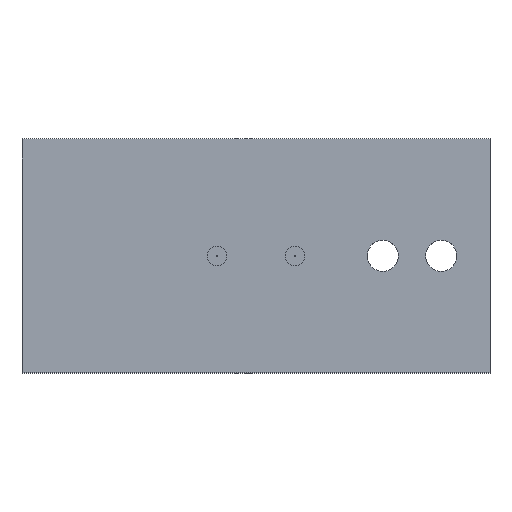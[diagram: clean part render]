
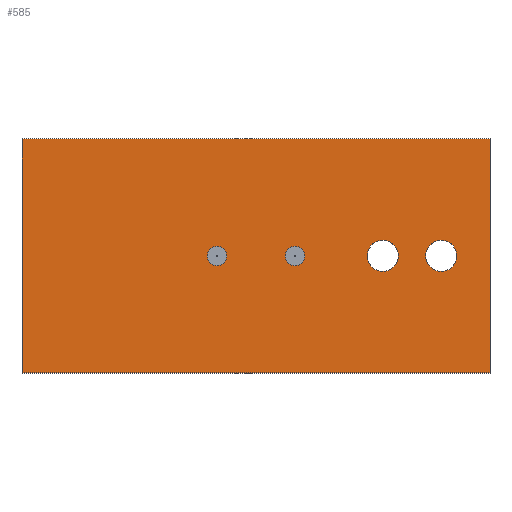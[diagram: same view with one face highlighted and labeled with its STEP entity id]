
A CAD part, top view. The second image highlights one B-rep face of the part: STEP entity #585.
In plain terms, the highlighted planar face has unit normal (0, 0, 1).
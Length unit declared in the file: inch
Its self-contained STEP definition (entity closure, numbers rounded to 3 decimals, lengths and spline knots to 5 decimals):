
#12 = CARTESIAN_POINT ( 'NONE',  ( 2.375, 0., 1.25 ) ) ;
#30 = VERTEX_POINT ( 'NONE', #325 ) ;
#37 = DIRECTION ( 'NONE',  ( 1., 0., 0. ) ) ;
#38 = ORIENTED_EDGE ( 'NONE', *, *, #883, .T. ) ;
#41 = LINE ( 'NONE', #820, #334 ) ;
#56 = CARTESIAN_POINT ( 'NONE',  ( 2.575, 0., 1.25 ) ) ;
#63 = VERTEX_POINT ( 'NONE', #904 ) ;
#99 = EDGE_CURVE ( 'NONE', #473, #601, #727, .T. ) ;
#105 = DIRECTION ( 'NONE',  ( 0., 0., 1. ) ) ;
#122 = ORIENTED_EDGE ( 'NONE', *, *, #648, .F. ) ;
#123 = DIRECTION ( 'NONE',  ( 1., 0., 0. ) ) ;
#147 = FACE_BOUND ( 'NONE', #301, .T. ) ;
#148 = DIRECTION ( 'NONE',  ( 0., 0., 1. ) ) ;
#168 = EDGE_CURVE ( 'NONE', #175, #242, #779, .T. ) ;
#175 = VERTEX_POINT ( 'NONE', #486 ) ;
#176 = DIRECTION ( 'NONE',  ( 1., 0., 0. ) ) ;
#180 = DIRECTION ( 'NONE',  ( 1., 0., 0. ) ) ;
#188 = AXIS2_PLACEMENT_3D ( 'NONE', #733, #105, #37 ) ;
#193 = ORIENTED_EDGE ( 'NONE', *, *, #236, .T. ) ;
#208 = AXIS2_PLACEMENT_3D ( 'NONE', #354, #290, #638 ) ;
#224 = AXIS2_PLACEMENT_3D ( 'NONE', #608, #742, #180 ) ;
#225 = CARTESIAN_POINT ( 'NONE',  ( -0.5, 0., 1.25 ) ) ;
#230 = CIRCLE ( 'NONE', #188, 0.125 ) ;
#236 = EDGE_CURVE ( 'NONE', #243, #468, #503, .T. ) ;
#242 = VERTEX_POINT ( 'NONE', #880 ) ;
#243 = VERTEX_POINT ( 'NONE', #445 ) ;
#249 = AXIS2_PLACEMENT_3D ( 'NONE', #12, #488, #562 ) ;
#257 = AXIS2_PLACEMENT_3D ( 'NONE', #427, #423, #706 ) ;
#267 = EDGE_LOOP ( 'NONE', ( #713, #122 ) ) ;
#270 = AXIS2_PLACEMENT_3D ( 'NONE', #825, #689, #680 ) ;
#273 = PLANE ( 'NONE',  #257 ) ;
#278 = CARTESIAN_POINT ( 'NONE',  ( -3., -1.5, 1.25 ) ) ;
#282 = CARTESIAN_POINT ( 'NONE',  ( 3., -1.5, 1.25 ) ) ;
#285 = FACE_BOUND ( 'NONE', #895, .T. ) ;
#290 = DIRECTION ( 'NONE',  ( 0., 0., 1. ) ) ;
#297 = ORIENTED_EDGE ( 'NONE', *, *, #596, .T. ) ;
#301 = EDGE_LOOP ( 'NONE', ( #730, #824 ) ) ;
#302 = EDGE_CURVE ( 'NONE', #736, #63, #230, .T. ) ;
#305 = CARTESIAN_POINT ( 'NONE',  ( 3., 1.5, 1.25 ) ) ;
#325 = CARTESIAN_POINT ( 'NONE',  ( 2.175, 0., 1.25 ) ) ;
#334 = VECTOR ( 'NONE', #619, 39.37008 ) ;
#338 = ORIENTED_EDGE ( 'NONE', *, *, #527, .F. ) ;
#344 = FACE_BOUND ( 'NONE', #267, .T. ) ;
#354 = CARTESIAN_POINT ( 'NONE',  ( 1.625, 0., 1.25 ) ) ;
#362 = ORIENTED_EDGE ( 'NONE', *, *, #780, .F. ) ;
#379 = VERTEX_POINT ( 'NONE', #454 ) ;
#400 = ORIENTED_EDGE ( 'NONE', *, *, #816, .F. ) ;
#423 = DIRECTION ( 'NONE',  ( 0., 0., 1. ) ) ;
#424 = DIRECTION ( 'NONE',  ( 1., 0., 0. ) ) ;
#427 = CARTESIAN_POINT ( 'NONE',  ( 0., 0., 1.25 ) ) ;
#434 = CIRCLE ( 'NONE', #249, 0.2 ) ;
#445 = CARTESIAN_POINT ( 'NONE',  ( 3., 1.5, 1.25 ) ) ;
#447 = ORIENTED_EDGE ( 'NONE', *, *, #99, .F. ) ;
#448 = DIRECTION ( 'NONE',  ( 0., 0., 1. ) ) ;
#454 = CARTESIAN_POINT ( 'NONE',  ( 1.825, 0., 1.25 ) ) ;
#465 = CARTESIAN_POINT ( 'NONE',  ( 0.5, 0., 1.25 ) ) ;
#468 = VERTEX_POINT ( 'NONE', #548 ) ;
#470 = CIRCLE ( 'NONE', #224, 0.2 ) ;
#473 = VERTEX_POINT ( 'NONE', #845 ) ;
#484 = DIRECTION ( 'NONE',  ( 0., -1., 0. ) ) ;
#486 = CARTESIAN_POINT ( 'NONE',  ( -3., -1.5, 1.25 ) ) ;
#487 = CIRCLE ( 'NONE', #655, 0.125 ) ;
#488 = DIRECTION ( 'NONE',  ( 0., 0., 1. ) ) ;
#497 = EDGE_CURVE ( 'NONE', #859, #30, #434, .T. ) ;
#503 = LINE ( 'NONE', #305, #582 ) ;
#519 = ORIENTED_EDGE ( 'NONE', *, *, #168, .T. ) ;
#527 = EDGE_CURVE ( 'NONE', #379, #881, #882, .T. ) ;
#548 = CARTESIAN_POINT ( 'NONE',  ( -3., 1.5, 1.25 ) ) ;
#562 = DIRECTION ( 'NONE',  ( 1., 0., 0. ) ) ;
#568 = DIRECTION ( 'NONE',  ( 1., 0., 0. ) ) ;
#582 = VECTOR ( 'NONE', #806, 39.37008 ) ;
#585 = ADVANCED_FACE ( 'NONE', ( #344, #783, #285, #778, #147 ), #273, .T. ) ;
#586 = EDGE_LOOP ( 'NONE', ( #297, #519, #38, #193 ) ) ;
#590 = AXIS2_PLACEMENT_3D ( 'NONE', #465, #684, #123 ) ;
#596 = EDGE_CURVE ( 'NONE', #468, #175, #907, .T. ) ;
#601 = VERTEX_POINT ( 'NONE', #769 ) ;
#604 = CARTESIAN_POINT ( 'NONE',  ( 1.425, 0., 1.25 ) ) ;
#608 = CARTESIAN_POINT ( 'NONE',  ( 2.375, 0., 1.25 ) ) ;
#612 = VECTOR ( 'NONE', #484, 39.37008 ) ;
#619 = DIRECTION ( 'NONE',  ( 0., 1., 0. ) ) ;
#634 = VECTOR ( 'NONE', #424, 39.37008 ) ;
#638 = DIRECTION ( 'NONE',  ( 1., 0., 0. ) ) ;
#648 = EDGE_CURVE ( 'NONE', #63, #736, #487, .T. ) ;
#655 = AXIS2_PLACEMENT_3D ( 'NONE', #225, #448, #176 ) ;
#665 = CIRCLE ( 'NONE', #590, 0.125 ) ;
#680 = DIRECTION ( 'NONE',  ( 1., 0., 0. ) ) ;
#684 = DIRECTION ( 'NONE',  ( 0., 0., 1. ) ) ;
#689 = DIRECTION ( 'NONE',  ( 0., 0., 1. ) ) ;
#693 = EDGE_LOOP ( 'NONE', ( #447, #362 ) ) ;
#701 = AXIS2_PLACEMENT_3D ( 'NONE', #838, #148, #568 ) ;
#706 = DIRECTION ( 'NONE',  ( 1., 0., 0. ) ) ;
#713 = ORIENTED_EDGE ( 'NONE', *, *, #302, .F. ) ;
#715 = CARTESIAN_POINT ( 'NONE',  ( -0.375, 0., 1.25 ) ) ;
#727 = CIRCLE ( 'NONE', #701, 0.125 ) ;
#730 = ORIENTED_EDGE ( 'NONE', *, *, #786, .F. ) ;
#733 = CARTESIAN_POINT ( 'NONE',  ( -0.5, 0., 1.25 ) ) ;
#734 = CIRCLE ( 'NONE', #270, 0.2 ) ;
#736 = VERTEX_POINT ( 'NONE', #715 ) ;
#742 = DIRECTION ( 'NONE',  ( 0., 0., 1. ) ) ;
#769 = CARTESIAN_POINT ( 'NONE',  ( 0.375, 0., 1.25 ) ) ;
#778 = FACE_OUTER_BOUND ( 'NONE', #586, .T. ) ;
#779 = LINE ( 'NONE', #282, #634 ) ;
#780 = EDGE_CURVE ( 'NONE', #601, #473, #665, .T. ) ;
#783 = FACE_BOUND ( 'NONE', #693, .T. ) ;
#786 = EDGE_CURVE ( 'NONE', #30, #859, #470, .T. ) ;
#806 = DIRECTION ( 'NONE',  ( -1., 0., 0. ) ) ;
#816 = EDGE_CURVE ( 'NONE', #881, #379, #734, .T. ) ;
#820 = CARTESIAN_POINT ( 'NONE',  ( 3., -1.5, 1.25 ) ) ;
#824 = ORIENTED_EDGE ( 'NONE', *, *, #497, .F. ) ;
#825 = CARTESIAN_POINT ( 'NONE',  ( 1.625, 0., 1.25 ) ) ;
#838 = CARTESIAN_POINT ( 'NONE',  ( 0.5, 0., 1.25 ) ) ;
#845 = CARTESIAN_POINT ( 'NONE',  ( 0.625, 0., 1.25 ) ) ;
#859 = VERTEX_POINT ( 'NONE', #56 ) ;
#880 = CARTESIAN_POINT ( 'NONE',  ( 3., -1.5, 1.25 ) ) ;
#881 = VERTEX_POINT ( 'NONE', #604 ) ;
#882 = CIRCLE ( 'NONE', #208, 0.2 ) ;
#883 = EDGE_CURVE ( 'NONE', #242, #243, #41, .T. ) ;
#895 = EDGE_LOOP ( 'NONE', ( #400, #338 ) ) ;
#904 = CARTESIAN_POINT ( 'NONE',  ( -0.625, 0., 1.25 ) ) ;
#907 = LINE ( 'NONE', #278, #612 ) ;
